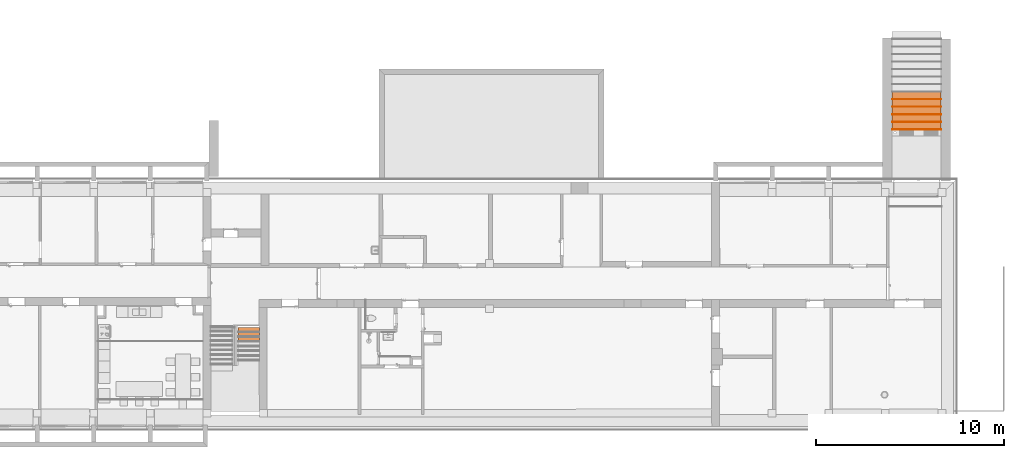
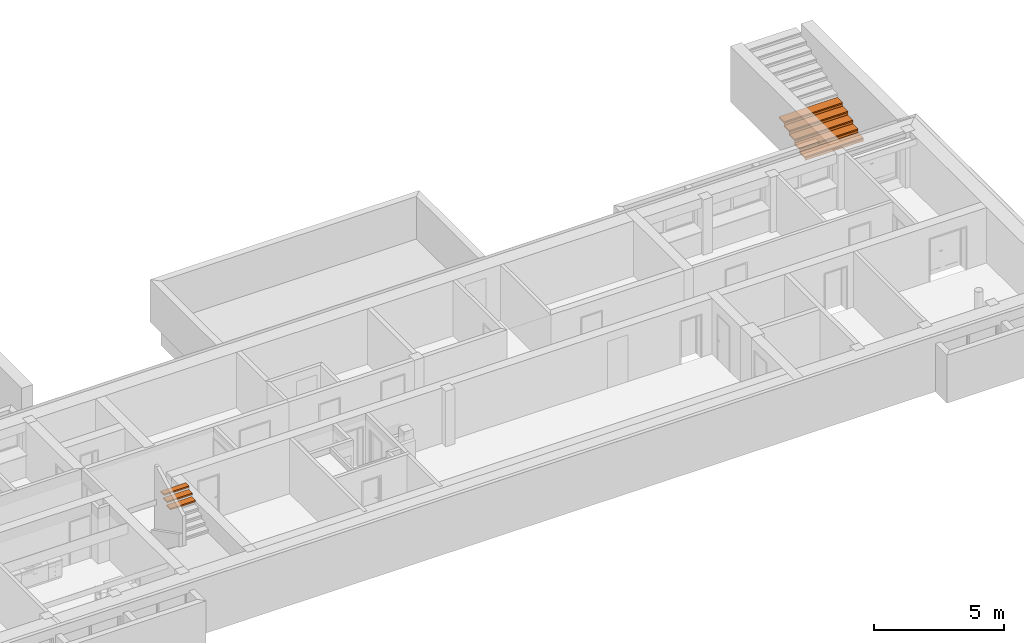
# One storey, part 122 of 127: 13 proxies, 2 elements without a shape of their own.
"""IFC2X3 building model written with IfcOpenShell, lengths in millimetres."""

from ifc_helpers import new_model, entity, si_unit, converted_unit, derived_unit, money_unit, direction, frame, origin_with_axes, place, context, subcontext, project, spatial, faceted_brep, material, type_object, element, aggregate, save


model = new_model("IFC2X3")

# Units and contexts
model_context = context("Model", 3, precision=1e-05, world=origin_with_axes(), true_north=direction((0.0, 1.0)))
body_context = subcontext(model_context, "Body", "Model", "MODEL_VIEW")
ifc_project = project(units=[si_unit("LENGTHUNIT", "METRE", prefix="MILLI"), si_unit("AREAUNIT", "SQUARE_METRE"), si_unit("VOLUMEUNIT", "CUBIC_METRE"), converted_unit("PLANEANGLEUNIT", "DEGREE", entity("IfcPlaneAngleMeasure", 0.0174532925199), si_unit("PLANEANGLEUNIT", "RADIAN"), dimensions=[0, 0, 0, 0, 0, 0, 0]), si_unit("SOLIDANGLEUNIT", "STERADIAN"), money_unit("EUR"), converted_unit("TIMEUNIT", "Year", entity("IfcTimeMeasure", 31556926.0), si_unit("TIMEUNIT", "SECOND"), dimensions=[0, 0, 1, 0, 0, 0, 0]), si_unit("MASSUNIT", "GRAM", prefix="KILO"), si_unit("THERMODYNAMICTEMPERATUREUNIT", "DEGREE_CELSIUS"), si_unit("LUMINOUSINTENSITYUNIT", "LUMEN"), si_unit("ENERGYUNIT", "JOULE", prefix="MEGA"), derived_unit("THERMALCONDUCTANCEUNIT", [(si_unit("POWERUNIT", "WATT"), 1), (si_unit("LENGTHUNIT", "METRE"), -1), (si_unit("THERMODYNAMICTEMPERATUREUNIT", "KELVIN"), -1)]), derived_unit("SPECIFICHEATCAPACITYUNIT", [(si_unit("ENERGYUNIT", "JOULE"), 1), (si_unit("MASSUNIT", "GRAM", prefix="KILO"), -1), (si_unit("THERMODYNAMICTEMPERATUREUNIT", "KELVIN"), -1)]), derived_unit("MASSDENSITYUNIT", [(si_unit("MASSUNIT", "GRAM", prefix="KILO"), 1), (si_unit("VOLUMEUNIT", "CUBIC_METRE"), -1)])], contexts=[model_context])

# Site, building, storey
site_placement = place(None, origin_with_axes())
site = spatial("IfcSite", under=ifc_project, at=site_placement, Name="Site", CompositionType="ELEMENT")
building_placement = place(site_placement, origin_with_axes())
building = spatial("IfcBuilding", under=site, at=building_placement, Name="Building", CompositionType="ELEMENT")
storey_placement = place(building_placement, origin_with_axes())
storey = spatial("IfcBuildingStorey", under=building, at=storey_placement, Name="1 KORRUS", CompositionType="ELEMENT", Elevation=0.0)

# Stair, proxies
stair_1_placement = place(storey_placement, frame((97308.5591363, 50021.275071, 0.0), z_axis=(0.0, 0.0, 1.0), x_axis=(1.0, 0.0, 0.0)))
stair_1 = element("IfcStair", 1, at=stair_1_placement, inside=storey, Name="TR 7", ShapeType="STRAIGHT_RUN_STAIR")
ifc_material = material(Name="Betoon - Ol.Olev konstruktsioon")
building_element_proxy_type_1 = type_object("IfcBuildingElementProxyType", Name="SF RISER - 053", PredefinedType="NOTDEFINED")
proxy_1_placement = place(stair_1_placement, frame((1300.0, 0.0, 109.230769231), z_axis=(0.0, 0.0, 1.0), x_axis=(1.0, 0.0, 0.0)))
proxy_1 = element("IfcBuildingElementProxy", 2, at=proxy_1_placement, type_object=building_element_proxy_type_1, material=ifc_material, Name=";  Objekti nimi: Riser 22", context=body_context, shape_type="Brep", body=[
    faceted_brep([(1300.0, 0.0, 0.0), (1300.0, 10.0, 0.0), (-1300.0, 10.0, 0.0), (-1300.0, 0.0, 0.0), (1300.0, 0.0, -109.230769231), (1300.0, 10.0, -109.230769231), (-1300.0, 10.0, -109.230769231), (-1300.0, 0.0, -109.230769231)], [[[0, 1, 2, 3]], [[0, 4, 5, 1]], [[1, 5, 6, 2]], [[3, 2, 6, 7]], [[4, 0, 3, 7]], [[5, 4, 7, 6]]]),
])
proxy_2_placement = place(stair_1_placement, frame((1300.0, 400.0, 278.461538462), z_axis=(0.0, 0.0, 1.0), x_axis=(1.0, 0.0, 0.0)))
proxy_2 = element("IfcBuildingElementProxy", 3, at=proxy_2_placement, type_object=building_element_proxy_type_1, material=ifc_material, Name=";  Objekti nimi: Riser 22", context=body_context, shape_type="Brep", body=[
    faceted_brep([(1300.0, 0.0, 0.0), (1300.0, 10.0, 0.0), (-1300.0, 10.0, 0.0), (-1300.0, 0.0, 0.0), (1300.0, 0.0, -109.230769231), (1300.0, 10.0, -109.230769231), (-1300.0, 10.0, -109.230769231), (-1300.0, 0.0, -109.230769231)], [[[0, 1, 2, 3]], [[0, 4, 5, 1]], [[1, 5, 6, 2]], [[3, 2, 6, 7]], [[4, 0, 3, 7]], [[5, 4, 7, 6]]]),
])
proxy_3_placement = place(stair_1_placement, frame((1300.0, 800.0, 447.692307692), z_axis=(0.0, 0.0, 1.0), x_axis=(1.0, 0.0, 0.0)))
proxy_3 = element("IfcBuildingElementProxy", 4, at=proxy_3_placement, type_object=building_element_proxy_type_1, material=ifc_material, Name=";  Objekti nimi: Riser 22", context=body_context, shape_type="Brep", body=[
    faceted_brep([(1300.0, 0.0, 0.0), (1300.0, 10.0, 0.0), (-1300.0, 10.0, 0.0), (-1300.0, 0.0, 0.0), (1300.0, 0.0, -109.230769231), (1300.0, 10.0, -109.230769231), (-1300.0, 10.0, -109.230769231), (-1300.0, 0.0, -109.230769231)], [[[0, 1, 2, 3]], [[0, 4, 5, 1]], [[1, 5, 6, 2]], [[3, 2, 6, 7]], [[4, 0, 3, 7]], [[5, 4, 7, 6]]]),
])
proxy_4_placement = place(stair_1_placement, frame((1300.0, 1200.0, 616.923076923), z_axis=(0.0, 0.0, 1.0), x_axis=(1.0, 0.0, 0.0)))
proxy_4 = element("IfcBuildingElementProxy", 5, at=proxy_4_placement, type_object=building_element_proxy_type_1, material=ifc_material, Name=";  Objekti nimi: Riser 22", context=body_context, shape_type="Brep", body=[
    faceted_brep([(1300.0, 0.0, 0.0), (1300.0, 10.0, 0.0), (-1300.0, 10.0, 0.0), (-1300.0, 0.0, 0.0), (1300.0, 0.0, -109.230769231), (1300.0, 10.0, -109.230769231), (-1300.0, 10.0, -109.230769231), (-1300.0, 0.0, -109.230769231)], [[[0, 1, 2, 3]], [[0, 4, 5, 1]], [[1, 5, 6, 2]], [[3, 2, 6, 7]], [[4, 0, 3, 7]], [[5, 4, 7, 6]]]),
])
proxy_5_placement = place(stair_1_placement, frame((1300.0, 1600.0, 786.153846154), z_axis=(0.0, 0.0, 1.0), x_axis=(1.0, 0.0, 0.0)))
proxy_5 = element("IfcBuildingElementProxy", 6, at=proxy_5_placement, type_object=building_element_proxy_type_1, material=ifc_material, Name=";  Objekti nimi: Riser 22", context=body_context, shape_type="Brep", body=[
    faceted_brep([(1300.0, 0.0, 0.0), (1300.0, 10.0, 0.0), (-1300.0, 10.0, 0.0), (-1300.0, 0.0, 0.0), (1300.0, 0.0, -109.230769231), (1300.0, 10.0, -109.230769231), (-1300.0, 10.0, -109.230769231), (-1300.0, 0.0, -109.230769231)], [[[0, 1, 2, 3]], [[0, 4, 5, 1]], [[1, 5, 6, 2]], [[3, 2, 6, 7]], [[4, 0, 3, 7]], [[5, 4, 7, 6]]]),
])
building_element_proxy_type_2 = type_object("IfcBuildingElementProxyType", Name="SF TREAD - 053", PredefinedType="NOTDEFINED")
proxy_6_placement = place(stair_1_placement, frame((1300.0, 0.0, 169.230769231), z_axis=(0.0, 0.0, 1.0), x_axis=(1.0, 0.0, 0.0)))
proxy_6 = element("IfcBuildingElementProxy", 7, at=proxy_6_placement, type_object=building_element_proxy_type_2, material=ifc_material, Name=";  Objekti nimi: Tread 22", context=body_context, shape_type="Brep", body=[
    faceted_brep([(1300.0, 0.0, -70.0), (-1300.0, 0.0, -70.0), (-1300.0, 410.000017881, -70.0), (1300.0, 410.000017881, -70.0), (1260.0, 40.0, -70.0), (1260.0, 370.000017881, -70.0), (-1260.0, 370.000017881, -70.0), (-1260.0, 40.0, -70.0), (1300.0, 0.0, 0.0), (-1300.0, 0.0, 0.0), (-1300.0, 410.000017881, 0.0), (1300.0, 410.000017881, 0.0), (1260.0, 40.0, -60.0), (1260.0, 370.000017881, -60.0), (-1260.0, 370.000017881, -60.0), (-1260.0, 40.0, -60.0)], [[[0, 1, 2, 3], [4, 5, 6, 7]], [[8, 9, 1, 0]], [[9, 10, 2, 1]], [[10, 11, 3, 2]], [[11, 8, 0, 3]], [[5, 4, 12, 13]], [[6, 5, 13, 14]], [[7, 6, 14, 15]], [[4, 7, 15, 12]], [[11, 10, 9, 8]], [[15, 14, 13, 12]]]),
])
proxy_7_placement = place(stair_1_placement, frame((1300.0, 400.0, 338.461538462), z_axis=(0.0, 0.0, 1.0), x_axis=(1.0, 0.0, 0.0)))
proxy_7 = element("IfcBuildingElementProxy", 8, at=proxy_7_placement, type_object=building_element_proxy_type_2, material=ifc_material, Name=";  Objekti nimi: Tread 22", context=body_context, shape_type="Brep", body=[
    faceted_brep([(1300.0, 0.0, -70.0), (-1300.0, 0.0, -70.0), (-1300.0, 410.000017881, -70.0), (1300.0, 410.000017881, -70.0), (1260.0, 40.0, -70.0), (1260.0, 370.000017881, -70.0), (-1260.0, 370.000017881, -70.0), (-1260.0, 40.0, -70.0), (1300.0, 0.0, 0.0), (-1300.0, 0.0, 0.0), (-1300.0, 410.000017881, 0.0), (1300.0, 410.000017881, 0.0), (1260.0, 40.0, -60.0), (1260.0, 370.000017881, -60.0), (-1260.0, 370.000017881, -60.0), (-1260.0, 40.0, -60.0)], [[[0, 1, 2, 3], [4, 5, 6, 7]], [[8, 9, 1, 0]], [[9, 10, 2, 1]], [[10, 11, 3, 2]], [[11, 8, 0, 3]], [[5, 4, 12, 13]], [[6, 5, 13, 14]], [[7, 6, 14, 15]], [[4, 7, 15, 12]], [[11, 10, 9, 8]], [[15, 14, 13, 12]]]),
])
proxy_8_placement = place(stair_1_placement, frame((1300.0, 800.0, 507.692307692), z_axis=(0.0, 0.0, 1.0), x_axis=(1.0, 0.0, 0.0)))
proxy_8 = element("IfcBuildingElementProxy", 9, at=proxy_8_placement, type_object=building_element_proxy_type_2, material=ifc_material, Name=";  Objekti nimi: Tread 22", context=body_context, shape_type="Brep", body=[
    faceted_brep([(1300.0, 0.0, -70.0), (-1300.0, 0.0, -70.0), (-1300.0, 410.000017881, -70.0), (1300.0, 410.000017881, -70.0), (1260.0, 40.0, -70.0), (1260.0, 370.000017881, -70.0), (-1260.0, 370.000017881, -70.0), (-1260.0, 40.0, -70.0), (1300.0, 0.0, 0.0), (-1300.0, 0.0, 0.0), (-1300.0, 410.000017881, 0.0), (1300.0, 410.000017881, 0.0), (1260.0, 40.0, -60.0), (1260.0, 370.000017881, -60.0), (-1260.0, 370.000017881, -60.0), (-1260.0, 40.0, -60.0)], [[[0, 1, 2, 3], [4, 5, 6, 7]], [[8, 9, 1, 0]], [[9, 10, 2, 1]], [[10, 11, 3, 2]], [[11, 8, 0, 3]], [[5, 4, 12, 13]], [[6, 5, 13, 14]], [[7, 6, 14, 15]], [[4, 7, 15, 12]], [[11, 10, 9, 8]], [[15, 14, 13, 12]]]),
])
proxy_9_placement = place(stair_1_placement, frame((1300.0, 1200.0, 676.923076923), z_axis=(0.0, 0.0, 1.0), x_axis=(1.0, 0.0, 0.0)))
proxy_9 = element("IfcBuildingElementProxy", 10, at=proxy_9_placement, type_object=building_element_proxy_type_2, material=ifc_material, Name=";  Objekti nimi: Tread 22", context=body_context, shape_type="Brep", body=[
    faceted_brep([(1300.0, 0.0, -70.0), (-1300.0, 0.0, -70.0), (-1300.0, 410.000017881, -70.0), (1300.0, 410.000017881, -70.0), (1260.0, 40.0, -70.0), (1260.0, 370.000017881, -70.0), (-1260.0, 370.000017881, -70.0), (-1260.0, 40.0, -70.0), (1300.0, 0.0, 0.0), (-1300.0, 0.0, 0.0), (-1300.0, 410.000017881, 0.0), (1300.0, 410.000017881, 0.0), (1260.0, 40.0, -60.0), (1260.0, 370.000017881, -60.0), (-1260.0, 370.000017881, -60.0), (-1260.0, 40.0, -60.0)], [[[0, 1, 2, 3], [4, 5, 6, 7]], [[8, 9, 1, 0]], [[9, 10, 2, 1]], [[10, 11, 3, 2]], [[11, 8, 0, 3]], [[5, 4, 12, 13]], [[6, 5, 13, 14]], [[7, 6, 14, 15]], [[4, 7, 15, 12]], [[11, 10, 9, 8]], [[15, 14, 13, 12]]]),
])
proxy_10_placement = place(stair_1_placement, frame((1300.0, 1600.0, 846.153846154), z_axis=(0.0, 0.0, 1.0), x_axis=(1.0, 0.0, 0.0)))
proxy_10 = element("IfcBuildingElementProxy", 11, at=proxy_10_placement, type_object=building_element_proxy_type_2, material=ifc_material, Name=";  Objekti nimi: Tread 22", context=body_context, shape_type="Brep", body=[
    faceted_brep([(1300.0, 0.0, -70.0), (-1300.0, 0.0, -70.0), (-1300.0, 410.000017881, -70.0), (1300.0, 410.000017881, -70.0), (1260.0, 40.0, -70.0), (1260.0, 370.000017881, -70.0), (-1260.0, 370.000017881, -70.0), (-1260.0, 40.0, -70.0), (1300.0, 0.0, 0.0), (-1300.0, 0.0, 0.0), (-1300.0, 410.000017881, 0.0), (1300.0, 410.000017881, 0.0), (1260.0, 40.0, -60.0), (1260.0, 370.000017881, -60.0), (-1260.0, 370.000017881, -60.0), (-1260.0, 40.0, -60.0)], [[[0, 1, 2, 3], [4, 5, 6, 7]], [[8, 9, 1, 0]], [[9, 10, 2, 1]], [[10, 11, 3, 2]], [[11, 8, 0, 3]], [[5, 4, 12, 13]], [[6, 5, 13, 14]], [[7, 6, 14, 15]], [[4, 7, 15, 12]], [[11, 10, 9, 8]], [[15, 14, 13, 12]]]),
])
aggregate(stair_1, [proxy_1, proxy_2, proxy_3, proxy_4, proxy_5, proxy_6, proxy_7, proxy_8, proxy_9, proxy_10])

stair_2_placement = place(storey_placement, frame((62353.9582893, 39096.002044, 0.0), z_axis=(0.0, 0.0, 1.0), x_axis=(1.0, 0.0, 0.0)))
stair_2 = element("IfcStair", 12, at=stair_2_placement, inside=storey, Name="STAIR - 003", ShapeType="NOTDEFINED")
building_element_proxy_type_3 = type_object("IfcBuildingElementProxyType", Name="SF TREAD - 063", PredefinedType="NOTDEFINED")
proxy_11_placement = place(stair_2_placement, frame((857.639750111, -338.24086166, 2625.0), z_axis=(0.0, 0.0, 1.0), x_axis=(1.0, 0.0, 0.0)))
proxy_11 = element("IfcBuildingElementProxy", 13, at=proxy_11_placement, type_object=building_element_proxy_type_3, material=ifc_material, Name=";  Objekti nimi: Tread 22", context=body_context, shape_type="Brep", body=[
    faceted_brep([(-600.0, 310.593236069, -70.0), (525.754745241, 310.593236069, -70.0), (525.754745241, 0.0, -70.0), (-600.0, 0.0, -70.0), (485.754745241, 40.0, -70.0), (485.754745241, 270.593236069, -70.0), (-560.0, 270.593236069, -70.0), (-560.0, 40.0, -70.0), (-600.0, 310.593236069, -60.0), (525.754745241, 310.593236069, -60.0), (525.754745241, 294.516284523, 0.0), (525.754745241, 0.0, 0.0), (-600.0, 0.0, 0.0), (-600.0, 294.516284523, 0.0), (485.754745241, 40.0, -60.0), (485.754745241, 270.593236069, -60.0), (-560.0, 270.593236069, -60.0), (-560.0, 40.0, -60.0)], [[[0, 1, 2, 3], [4, 5, 6, 7]], [[0, 8, 9, 1]], [[10, 11, 2, 1, 9]], [[11, 12, 3, 2]], [[12, 13, 8, 0, 3]], [[5, 4, 14, 15]], [[6, 5, 15, 16]], [[7, 6, 16, 17]], [[4, 7, 17, 14]], [[13, 10, 9, 8]], [[10, 13, 12, 11]], [[17, 16, 15, 14]]]),
])
building_element_proxy_type_4 = type_object("IfcBuildingElementProxyType", Name="SF TREAD - 064", PredefinedType="NOTDEFINED")
proxy_12_placement = place(stair_2_placement, frame((857.639750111, -88.2408616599, 2812.5), z_axis=(0.0, 0.0, 1.0), x_axis=(1.0, 0.0, 0.0)))
proxy_12 = element("IfcBuildingElementProxy", 14, at=proxy_12_placement, type_object=building_element_proxy_type_4, material=ifc_material, Name=";  Objekti nimi: Tread 22", context=body_context, shape_type="Brep", body=[
    faceted_brep([(-600.0, 310.593236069, -70.0), (525.754745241, 310.593236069, -70.0), (525.754745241, 0.0, -70.0), (-600.0, 0.0, -70.0), (485.754745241, 40.0, -70.0), (485.754745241, 270.593236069, -70.0), (-560.0, 270.593236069, -70.0), (-560.0, 40.0, -70.0), (-600.0, 310.593236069, -60.0), (525.754745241, 310.593236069, -60.0), (525.754745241, 294.516284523, 0.0), (525.754745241, 0.0, 0.0), (-600.0, 0.0, 0.0), (-600.0, 294.516284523, 0.0), (485.754745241, 40.0, -60.0), (485.754745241, 270.593236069, -60.0), (-560.0, 270.593236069, -60.0), (-560.0, 40.0, -60.0)], [[[0, 1, 2, 3], [4, 5, 6, 7]], [[0, 8, 9, 1]], [[10, 11, 2, 1, 9]], [[11, 12, 3, 2]], [[12, 13, 8, 0, 3]], [[5, 4, 14, 15]], [[6, 5, 15, 16]], [[7, 6, 16, 17]], [[4, 7, 17, 14]], [[13, 10, 9, 8]], [[10, 13, 12, 11]], [[17, 16, 15, 14]]]),
])
building_element_proxy_type_5 = type_object("IfcBuildingElementProxyType", Name="SF TREAD - 065", PredefinedType="NOTDEFINED")
proxy_13_placement = place(stair_2_placement, frame((857.639750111, 161.75913834, 3000.0), z_axis=(0.0, 0.0, 1.0), x_axis=(1.0, 0.0, 0.0)))
proxy_13 = element("IfcBuildingElementProxy", 15, at=proxy_13_placement, type_object=building_element_proxy_type_5, material=ifc_material, Name=";  Objekti nimi: Tread 22", context=body_context, shape_type="Brep", body=[
    faceted_brep([(525.754745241, 0.0, -70.0), (-600.0, 0.0, -70.0), (-600.0, 250.0, -70.0), (525.754745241, 250.0, -70.0), (485.754745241, 40.0, -70.0), (485.754745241, 210.0, -70.0), (-560.0, 210.0, -70.0), (-560.0, 40.0, -70.0), (525.754745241, 0.0, 0.0), (-600.0, 0.0, 0.0), (-600.0, 250.0, 0.0), (525.754745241, 250.0, 0.0), (485.754745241, 40.0, -60.0), (485.754745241, 210.0, -60.0), (-560.0, 210.0, -60.0), (-560.0, 40.0, -60.0)], [[[0, 1, 2, 3], [4, 5, 6, 7]], [[8, 9, 1, 0]], [[9, 10, 2, 1]], [[10, 11, 3, 2]], [[11, 8, 0, 3]], [[5, 4, 12, 13]], [[6, 5, 13, 14]], [[7, 6, 14, 15]], [[4, 7, 15, 12]], [[11, 10, 9, 8]], [[15, 14, 13, 12]]]),
])
aggregate(stair_2, [proxy_11, proxy_12, proxy_13])

save(model, "model.ifc")
